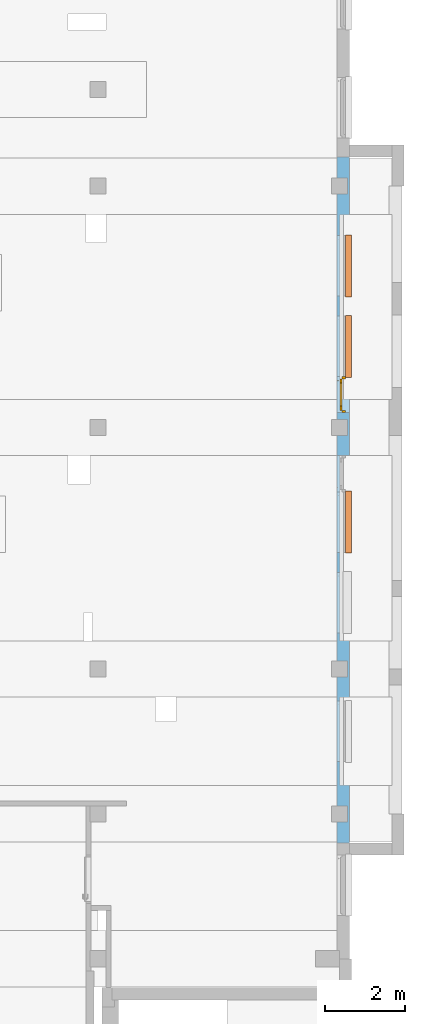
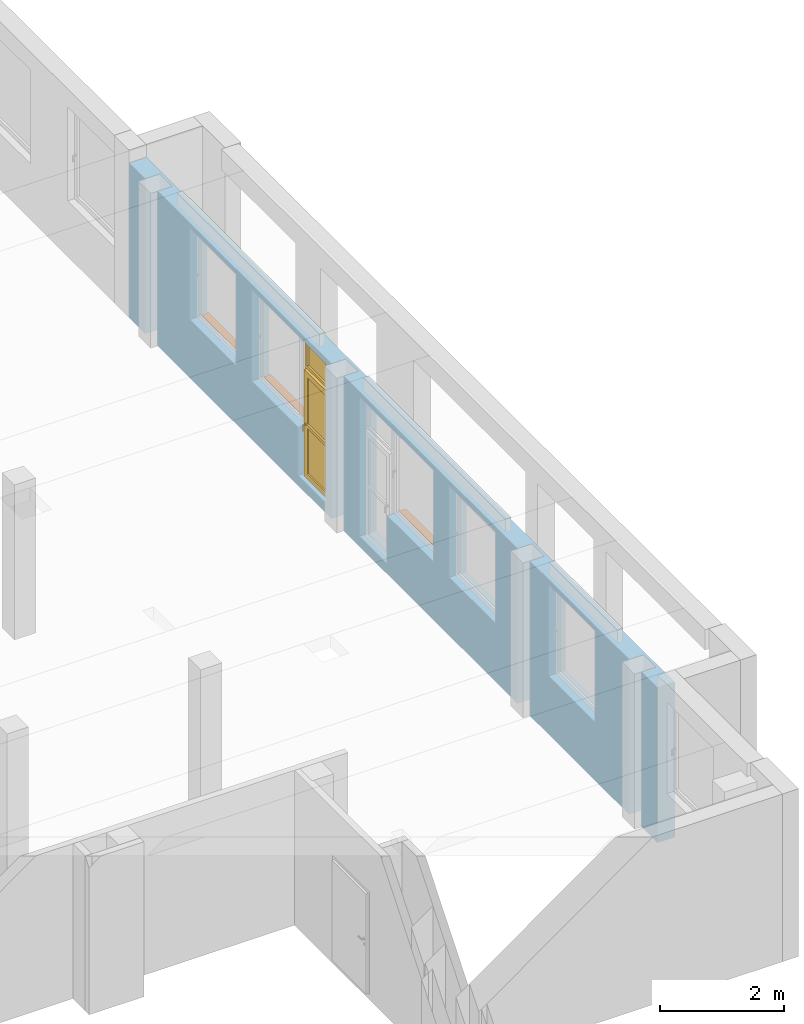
# One storey, part 18 of 27: 3 proxies, 1 door, 7 openings, plus 1 element that does not belong to this part.
"""IFC4 building model written with IfcOpenShell, lengths in metres."""

from ifc_helpers import new_model, entity, si_unit, converted_unit, derived_unit, frame, origin, origin_with_axes, place, context, subcontext, project, spatial, polyline, outline, extrude, closed_shell, open_shell, faceted_brep, surface_model, source, transform, mapped, material, layer, layer_set, layer_usage, type_object, element, fill, save


model = new_model("IFC4")

# Units and contexts
model_context = context("Model", 3, precision=1e-05, world=origin())
body_context = subcontext(model_context, "Body", "Model", "MODEL_VIEW")
ifc_project = project(units=[si_unit("LENGTHUNIT", "METRE"), si_unit("AREAUNIT", "SQUARE_METRE"), si_unit("VOLUMEUNIT", "CUBIC_METRE"), si_unit("MASSUNIT", "GRAM", prefix="KILO"), converted_unit("PLANEANGLEUNIT", "DEGREE", entity("IfcPlaneAngleMeasure", 0.0174532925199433), si_unit("PLANEANGLEUNIT", "RADIAN"), dimensions=[0, 0, 0, 0, 0, 0, 0]), derived_unit("THERMALTRANSMITTANCEUNIT", [(si_unit("POWERUNIT", "WATT"), 1), (si_unit("THERMODYNAMICTEMPERATUREUNIT", "KELVIN"), -1), (si_unit("LENGTHUNIT", "METRE"), -2)]), derived_unit("VOLUMETRICFLOWRATEUNIT", [(si_unit("LENGTHUNIT", "METRE"), 3), (converted_unit("TIMEUNIT", "hour", entity("IfcTimeMeasure", 3600.0), si_unit("TIMEUNIT", "SECOND"), dimensions=[0, 0, 1, 0, 0, 0, 0]), -1), (si_unit("LENGTHUNIT", "METRE"), -1)])], contexts=[model_context])

# Site, building, storey
site_placement = place(None, origin())
site = spatial("IfcSite", under=ifc_project, at=site_placement, Name="3. ASŘ", CompositionType="ELEMENT")
building_placement = place(site_placement, origin())
building = spatial("IfcBuilding", under=site, at=building_placement, Name="Pavilon C", CompositionType="ELEMENT")
storey_placement = place(building_placement, frame((0.0, 0.0, 7.2)))
storey = spatial("IfcBuildingStorey", under=building, at=storey_placement, Name="Půdorys 3.NP", CompositionType="ELEMENT", Elevation=7.2)

# Wall, openings, door, proxies
ifc_material_1 = material(Name="PLYNOSILIKÁT")
ifc_layer = layer(ifc_material_1, 0.32)
ifc_layer_set = layer_set([ifc_layer])
ifc_layer_usage = layer_usage(ifc_layer_set, "AXIS2", "POSITIVE", 0.0)
wall_placement = place(storey_placement, frame((50.2, 2.88, -0.1), z_axis=(0.0, 0.0, 1.0), x_axis=(0.0, 1.0, 0.0)))
wall = element("IfcWall", 1, at=wall_placement, inside=storey, material=ifc_layer_usage, Name="PLYNOSILIKÁT", context=body_context, shape_type="SweptSolid", body=[
    extrude(outline(polyline([(0.0, -0.32), (17.04, -0.32), (17.04, 0.0), (16.52, 0.0), (16.52, -0.27), (16.12, -0.27), (16.12, 0.0), (10.52, 0.0), (10.52, -0.27), (10.12, -0.27), (10.12, 0.0), (4.52, 0.0), (4.52, -0.27), (4.12, -0.27), (4.12, 0.0), (0.919999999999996, 0.0), (0.919999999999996, -0.27), (0.519999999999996, -0.27), (0.519999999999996, 0.0), (0.0, 0.0), (0.0, -0.32)])), frame((0.0, 0.32, 0.0), z_axis=(0.0, 0.0, 1.0), x_axis=(1.0, 0.0, 0.0)), (0.0, 0.0, 1.0), 3.05),
])
opening_1_placement = place(wall_placement, frame((5.21999999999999, 0.0, 1.15), z_axis=(0.0, 1.0, 0.0), x_axis=(0.0, 0.0, 1.0)))
element("IfcOpeningElement", 2, at=opening_1_placement, cuts=wall, Name="Okenní otvor", ObjectType="Opening", context=body_context, shape_type="SweptSolid", body=[
    extrude(outline(polyline([(0.0, 1.5), (1.8, 1.5), (1.8, 0.0), (0.0, 0.0), (0.0, 1.5)])), origin_with_axes(), (0.0, 0.0, 1.0), 0.32),
])
opening_2_placement = place(wall_placement, frame((2.02, 0.0, 1.15), z_axis=(0.0, 1.0, 0.0), x_axis=(0.0, 0.0, 1.0)))
element("IfcOpeningElement", 3, at=opening_2_placement, cuts=wall, Name="Okenní otvor", ObjectType="Opening", context=body_context, shape_type="SweptSolid", body=[
    extrude(outline(polyline([(0.0, 1.5), (1.8, 1.5), (1.8, 0.0), (0.0, 0.0), (0.0, 1.5)])), origin_with_axes(), (0.0, 0.0, 1.0), 0.32),
])
opening_3_placement = place(wall_placement, frame((8.71999999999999, 0.0, 0.2), z_axis=(0.0, 1.0, 0.0), x_axis=(0.0, 0.0, 1.0)))
element("IfcOpeningElement", 4, at=opening_3_placement, cuts=wall, Name="Dveřní otvor", ObjectType="Opening", context=body_context, shape_type="SweptSolid", body=[
    extrude(outline(polyline([(0.0, 0.9), (2.75, 0.9), (2.75, 0.0), (0.0, 0.0), (0.0, 0.9)])), origin_with_axes(), (0.0, 0.0, 1.0), 0.32),
])
opening_4_placement = place(wall_placement, frame((7.21999999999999, 0.0, 1.15), z_axis=(0.0, 1.0, 0.0), x_axis=(0.0, 0.0, 1.0)))
opening_4 = element("IfcOpeningElement", 5, at=opening_4_placement, cuts=wall, Name="Okenní otvor", ObjectType="Opening", context=body_context, shape_type="SweptSolid", body=[
    extrude(outline(polyline([(0.0, 1.5), (1.8, 1.5), (1.8, 0.0), (0.0, 0.0), (0.0, 1.5)])), origin_with_axes(), (0.0, 0.0, 1.0), 0.32),
])
opening_5_placement = place(wall_placement, frame((13.59, 0.0, 1.15), z_axis=(0.0, 1.0, 0.0), x_axis=(0.0, 0.0, 1.0)))
opening_5 = element("IfcOpeningElement", 6, at=opening_5_placement, cuts=wall, Name="Okenní otvor", ObjectType="Opening", context=body_context, shape_type="SweptSolid", body=[
    extrude(outline(polyline([(0.0, 1.5), (1.8, 1.5), (1.8, 0.0), (0.0, 0.0), (0.0, 1.5)])), origin_with_axes(), (0.0, 0.0, 1.0), 0.32),
])
opening_6_placement = place(wall_placement, frame((11.59, 0.0, 1.15), z_axis=(0.0, 1.0, 0.0), x_axis=(0.0, 0.0, 1.0)))
opening_6 = element("IfcOpeningElement", 7, at=opening_6_placement, cuts=wall, Name="Okenní otvor", ObjectType="Opening", context=body_context, shape_type="SweptSolid", body=[
    extrude(outline(polyline([(0.0, 1.5), (1.8, 1.5), (1.8, 0.0), (0.0, 0.0), (0.0, 1.5)])), origin_with_axes(), (0.0, 0.0, 1.0), 0.32),
])
opening_7_placement = place(wall_placement, frame((10.69, 0.0, 0.2), z_axis=(0.0, 1.0, 0.0), x_axis=(0.0, 0.0, 1.0)))
opening_7 = element("IfcOpeningElement", 8, at=opening_7_placement, cuts=wall, Name="Dveřní otvor", ObjectType="Opening", context=body_context, shape_type="SweptSolid", body=[
    extrude(outline(polyline([(0.0, 0.9), (2.75, 0.9), (2.75, 0.0), (0.0, 0.0), (0.0, 0.9)])), origin_with_axes(), (0.0, 0.0, 1.0), 0.32),
])
door_type = type_object("IfcDoorType", Name="D701", OperationType="NOTDEFINED", ParameterTakesPrecedence=False, PredefinedType="DOOR")
shared_shape_1 = source(origin_with_axes(), body_context, "Body", "SurfaceModel", [
    surface_model("IfcShellBasedSurfaceModel", [(0.0, 0.0920000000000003, 2.75), (0.0, 0.092, 8.57747943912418e-18), (0.06, 0.092, 8.57747943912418e-18), (0.06, 0.0920000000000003, 2.75), (0.0, 0.0, 1.98442299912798e-17), (0.0, 3.41060513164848e-16, 2.75), (0.06, 3.41060513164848e-16, 2.75), (0.06, 0.0, 1.98442299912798e-17)], [closed_shell([[[0, 1, 2, 3]], [[4, 5, 6, 7]], [[1, 0, 5, 4]], [[2, 1, 4, 7]], [[3, 2, 7, 6]], [[0, 3, 6, 5]]], orient=[[False], [False], [False], [False], [False], [False]])]),
    surface_model("IfcShellBasedSurfaceModel", [(0.84, 0.0920000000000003, 2.75), (0.84, 0.092, 8.57747943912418e-18), (0.9, 0.092, 8.57747943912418e-18), (0.9, 0.0920000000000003, 2.75), (0.84, 0.0, 1.98442299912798e-17), (0.84, 3.41060513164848e-16, 2.75), (0.9, 3.41060513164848e-16, 2.75), (0.9, 0.0, 1.98442299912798e-17)], [closed_shell([[[0, 1, 2, 3]], [[4, 5, 6, 7]], [[1, 0, 5, 4]], [[2, 1, 4, 7]], [[3, 2, 7, 6]], [[0, 3, 6, 5]]], orient=[[False], [False], [False], [False], [False], [False]])]),
    surface_model("IfcShellBasedSurfaceModel", [(0.06, 0.0920000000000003, 2.75), (0.06, 0.0920000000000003, 2.69), (0.84, 0.0920000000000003, 2.69), (0.84, 0.0920000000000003, 2.75), (0.06, 3.26849658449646e-16, 2.69), (0.06, 3.41060513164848e-16, 2.75), (0.84, 3.41060513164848e-16, 2.75), (0.84, 3.26849658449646e-16, 2.69)], [closed_shell([[[0, 1, 2, 3]], [[4, 5, 6, 7]], [[1, 0, 5, 4]], [[2, 1, 4, 7]], [[3, 2, 7, 6]], [[0, 3, 6, 5]]], orient=[[False], [False], [False], [False], [False], [False]])]),
    surface_model("IfcShellBasedSurfaceModel", [(0.06, 0.0920000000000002, 2.15), (0.06, 0.0920000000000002, 2.1), (0.84, 0.0920000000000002, 2.1), (0.84, 0.0920000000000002, 2.15), (0.06, 2.55795384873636e-16, 2.1), (0.06, 2.55795384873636e-16, 2.15), (0.84, 2.55795384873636e-16, 2.15), (0.84, 2.55795384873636e-16, 2.1)], [closed_shell([[[0, 1, 2, 3]], [[4, 5, 6, 7]], [[1, 0, 5, 4]], [[2, 1, 4, 7]], [[3, 2, 7, 6]], [[0, 3, 6, 5]]], orient=[[False], [False], [False], [False], [False], [False]])]),
    surface_model("IfcShellBasedSurfaceModel", [(0.06, 0.142, 2.1), (0.06, 0.142, 2.45424544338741e-18), (0.16, 0.142, 2.45424544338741e-18), (0.16, 0.142, 2.1), (0.06, 0.092, 8.57747943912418e-18), (0.06, 0.0920000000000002, 2.1), (0.16, 0.0920000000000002, 2.1), (0.16, 0.092, 8.57747943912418e-18)], [closed_shell([[[0, 1, 2, 3]], [[4, 5, 6, 7]], [[1, 0, 5, 4]], [[2, 1, 4, 7]], [[3, 2, 7, 6]], [[0, 3, 6, 5]]], orient=[[False], [False], [False], [False], [False], [False]])]),
    surface_model("IfcShellBasedSurfaceModel", [(0.74, 0.142, 2.1), (0.74, 0.142, 2.45424544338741e-18), (0.84, 0.142, 2.45424544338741e-18), (0.84, 0.142, 2.1), (0.74, 0.092, 8.57747943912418e-18), (0.74, 0.0920000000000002, 2.1), (0.84, 0.0920000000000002, 2.1), (0.84, 0.092, 8.57747943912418e-18)], [closed_shell([[[0, 1, 2, 3]], [[4, 5, 6, 7]], [[1, 0, 5, 4]], [[2, 1, 4, 7]], [[3, 2, 7, 6]], [[0, 3, 6, 5]]], orient=[[False], [False], [False], [False], [False], [False]])]),
    surface_model("IfcShellBasedSurfaceModel", [(0.16, 0.142, 0.1), (0.16, 0.142, 2.45424544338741e-18), (0.74, 0.142, 2.45424544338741e-18), (0.74, 0.142, 0.1), (0.16, 0.092, 8.57747943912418e-18), (0.16, 0.092, 0.1), (0.74, 0.092, 0.1), (0.74, 0.092, 8.57747943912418e-18)], [closed_shell([[[0, 1, 2, 3]], [[4, 5, 6, 7]], [[1, 0, 5, 4]], [[2, 1, 4, 7]], [[3, 2, 7, 6]], [[0, 3, 6, 5]]], orient=[[False], [False], [False], [False], [False], [False]])]),
    surface_model("IfcShellBasedSurfaceModel", [(0.16, 0.142, 2.1), (0.16, 0.142, 2.0), (0.74, 0.142, 2.0), (0.74, 0.142, 2.1), (0.16, 0.0920000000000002, 2.0), (0.16, 0.0920000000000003, 2.1), (0.74, 0.0920000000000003, 2.1), (0.74, 0.0920000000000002, 2.0)], [closed_shell([[[0, 1, 2, 3]], [[4, 5, 6, 7]], [[1, 0, 5, 4]], [[2, 1, 4, 7]], [[3, 2, 7, 6]], [[0, 3, 6, 5]]], orient=[[False], [False], [False], [False], [False], [False]])]),
    surface_model("IfcShellBasedSurfaceModel", [(0.7775, 0.142, 1.07), (0.8025, 0.142, 1.07), (0.8025, 0.142, 1.03), (0.7775, 0.142, 1.03), (0.7775, 0.152, 1.03), (0.8025, 0.152, 1.03), (0.8025, 0.152, 1.07), (0.7775, 0.152, 1.07)], [closed_shell([[[0, 1, 2, 3]], [[4, 5, 6, 7]], [[3, 4, 7, 0]], [[2, 5, 4, 3]], [[1, 6, 5, 2]], [[0, 7, 6, 1]]], orient=[[False], [False], [False], [False], [False], [False]])]),
    surface_model("IfcShellBasedSurfaceModel", [(0.8, 0.152, 1.05), (0.798660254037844, 0.152, 1.045), (0.795, 0.152, 1.04133974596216), (0.79, 0.152, 1.04), (0.785, 0.152, 1.04133974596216), (0.781339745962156, 0.152, 1.045), (0.78, 0.152, 1.05), (0.781339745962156, 0.152, 1.055), (0.785, 0.152, 1.05866025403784), (0.79, 0.152, 1.06), (0.795, 0.152, 1.05866025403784), (0.798660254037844, 0.152, 1.055), (0.798660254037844, 0.197, 1.055), (0.8, 0.192, 1.05), (0.795, 0.200660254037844, 1.05866025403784), (0.79, 0.202, 1.06), (0.785, 0.200660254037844, 1.05866025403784), (0.781339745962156, 0.197, 1.055), (0.78, 0.192, 1.05), (0.781339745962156, 0.187, 1.045), (0.785, 0.183339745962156, 1.04133974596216), (0.79, 0.182, 1.04), (0.795, 0.183339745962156, 1.04133974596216), (0.798660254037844, 0.187, 1.045), (0.798660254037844, 0.197, 0.935), (0.8, 0.192, 0.935), (0.795, 0.200660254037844, 0.935), (0.79, 0.202, 0.935), (0.785, 0.200660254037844, 0.935), (0.781339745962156, 0.197, 0.935), (0.78, 0.192, 0.935), (0.781339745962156, 0.187, 0.935), (0.785, 0.183339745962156, 0.935), (0.79, 0.182, 0.935), (0.795, 0.183339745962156, 0.935), (0.798660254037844, 0.187, 0.935)], [open_shell([[[0, 1, 2, 3, 4, 5, 6, 7, 8, 9, 10, 11]], [[0, 11, 12, 13]], [[11, 10, 14, 12]], [[10, 9, 15, 14]], [[9, 8, 16, 15]], [[8, 7, 17, 16]], [[7, 6, 18, 17]], [[6, 5, 19, 18]], [[5, 4, 20, 19]], [[4, 3, 21, 20]], [[3, 2, 22, 21]], [[2, 1, 23, 22]], [[1, 0, 13, 23]], [[13, 12, 24, 25]], [[12, 14, 26, 24]], [[14, 15, 27, 26]], [[15, 16, 28, 27]], [[16, 17, 29, 28]], [[17, 18, 30, 29]], [[18, 19, 31, 30]], [[19, 20, 32, 31]], [[20, 21, 33, 32]], [[21, 22, 34, 33]], [[22, 23, 35, 34]], [[23, 13, 25, 35]]], orient=[[False], [False], [False], [False], [False], [False], [False], [False], [False], [False], [False], [False], [False], [False], [False], [False], [False], [False], [False], [False], [False], [False], [False], [False], [False]])]),
    surface_model("IfcShellBasedSurfaceModel", [(0.06, 0.0560000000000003, 2.69), (0.06, 0.0560000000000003, 2.15), (0.84, 0.0560000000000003, 2.15), (0.84, 0.0560000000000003, 2.69), (0.06, 0.0360000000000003, 2.15), (0.06, 0.0360000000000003, 2.69), (0.84, 0.0360000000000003, 2.69), (0.84, 0.0360000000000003, 2.15)], [closed_shell([[[0, 1, 2, 3]], [[4, 5, 6, 7]], [[1, 0, 5, 4]], [[2, 1, 4, 7]], [[3, 2, 7, 6]], [[0, 3, 6, 5]]], orient=[[False], [False], [False], [False], [False], [False]])]),
    surface_model("IfcShellBasedSurfaceModel", [(0.16, 0.152, 1.08), (0.16, 0.152, 1.02), (0.74, 0.152, 1.02), (0.74, 0.152, 1.08), (0.16, 0.0820000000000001, 1.02), (0.16, 0.0820000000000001, 1.08), (0.74, 0.0820000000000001, 1.08), (0.74, 0.0820000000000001, 1.02)], [closed_shell([[[0, 1, 2, 3]], [[4, 5, 6, 7]], [[1, 0, 5, 4]], [[2, 1, 4, 7]], [[3, 2, 7, 6]], [[0, 3, 6, 5]]], orient=[[False], [False], [False], [False], [False], [False]])]),
    surface_model("IfcShellBasedSurfaceModel", [(0.16, 0.117, 0.1), (0.74, 0.117, 0.1), (0.74, 0.117, 1.02), (0.16, 0.117, 1.02)], [open_shell([[[0, 1, 2, 3]]], orient=[[False]])]),
    surface_model("IfcShellBasedSurfaceModel", [(0.16, 0.117, 1.08), (0.74, 0.117, 1.08), (0.74, 0.117, 2.0), (0.16, 0.117, 2.0)], [open_shell([[[0, 1, 2, 3]]], orient=[[False]])]),
])
door_placement = place(opening_7_placement, frame((0.0, -1.81898940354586e-15, 0.100000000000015), z_axis=(1.0, 0.0, 0.0), x_axis=(0.0, 1.0, -1.22464679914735e-16)))
door = element("IfcDoor", 9, at=door_placement, inside=storey, type_object=door_type, Name="D701", OverallHeight=2.75, OverallWidth=0.9, context=body_context, shape_type="MappedRepresentation", body=[
    mapped(shared_shape_1, transform((0.0, 0.0, 0.0), x_axis=(1.0, 0.0, 0.0), y_axis=(0.0, 1.0, 0.0), z_axis=(0.0, 0.0, 1.0), scale=1.0)),
])
fill(opening_7, door)
ifc_material_2 = material(Name="PLECH")
shared_shape_2 = source(origin_with_axes(), body_context, "Body", "Brep", [
    faceted_brep([(-3.63797880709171e-15, 1.45519152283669e-14, 0.0), (-3.63797880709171e-15, 0.100000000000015, 0.0), (-3.63797880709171e-15, 0.100000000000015, 0.005), (-3.63797880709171e-15, 1.45519152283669e-14, 0.005), (1.5, 1.45519152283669e-14, 0.0), (1.5, 1.45519152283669e-14, 0.005), (1.5, 0.100000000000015, 0.005), (1.5, 0.100000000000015, 0.0), (-0.0200000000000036, 1.45519152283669e-14, 0.0), (-0.0200000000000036, -0.0349999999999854, 0.0), (1.52, -0.0349999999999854, 0.0), (1.52, 1.45519152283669e-14, 0.0), (1.52, 1.45519152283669e-14, 0.005), (1.52, -0.0399999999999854, 0.005), (-0.0200000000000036, -0.0399999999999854, 0.005), (-0.0200000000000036, 1.45519152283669e-14, 0.005), (-0.0200000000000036, -0.0399999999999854, -0.025), (-0.0200000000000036, -0.0349999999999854, -0.025), (1.52, -0.0349999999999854, -0.025), (1.52, -0.0399999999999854, -0.025)], [[[0, 1, 2, 3]], [[4, 5, 6, 7]], [[1, 0, 8, 9, 10, 11, 4, 7]], [[2, 1, 7, 6]], [[3, 2, 6, 5, 12, 13, 14, 15]], [[8, 15, 14, 16, 17, 9]], [[11, 10, 18, 19, 13, 12]], [[15, 8, 0, 3]], [[5, 4, 11, 12]], [[16, 14, 13, 19]], [[17, 16, 19, 18]], [[9, 17, 18, 10]]], orient=[[False], [False], [False], [False], [False], [False], [False], [False], [False], [False], [False], [False]]),
    faceted_brep([(-0.0200000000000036, 1.45519152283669e-14, 0.0), (-0.0200000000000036, 0.100000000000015, 0.0), (-0.0200000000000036, 0.100000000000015, 0.005), (-0.0200000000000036, 1.45519152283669e-14, 0.005), (-3.63797880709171e-15, 1.45519152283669e-14, 0.0), (-3.63797880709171e-15, 1.45519152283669e-14, 0.005), (-3.63797880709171e-15, 0.100000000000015, 0.005), (-3.63797880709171e-15, 0.100000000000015, 0.0)], [[[0, 1, 2, 3]], [[4, 5, 6, 7]], [[1, 0, 4, 7]], [[2, 1, 7, 6]], [[3, 2, 6, 5]], [[0, 3, 5, 4]]], orient=[[False], [False], [False], [False], [False], [False]]),
    faceted_brep([(1.5, 1.45519152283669e-14, 0.0), (1.5, 0.100000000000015, 0.0), (1.5, 0.100000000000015, 0.005), (1.5, 1.45519152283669e-14, 0.005), (1.52, 1.45519152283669e-14, 0.0), (1.52, 1.45519152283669e-14, 0.005), (1.52, 0.100000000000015, 0.005), (1.52, 0.100000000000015, 0.0)], [[[0, 1, 2, 3]], [[4, 5, 6, 7]], [[1, 0, 4, 7]], [[2, 1, 7, 6]], [[3, 2, 6, 5]], [[0, 3, 5, 4]]], orient=[[False], [False], [False], [False], [False], [False]]),
])
proxy_1_placement = place(opening_4_placement, frame((0.0, 0.0, 0.0), z_axis=(1.0, 0.0, 0.0), x_axis=(0.0, 1.0, 0.0)))
proxy_1 = element("IfcBuildingElementProxy", 10, at=proxy_1_placement, inside=storey, material=ifc_material_2, Name="Parapet vnější", context=body_context, shape_type="MappedRepresentation", body=[
    mapped(shared_shape_2, transform((0.0, 0.0, 0.0), x_axis=(1.0, 0.0, 0.0), y_axis=(0.0, 1.0, 0.0), z_axis=(0.0, 0.0, 1.0), scale=1.0)),
])
fill(opening_4, proxy_1)
ifc_material_3 = material(Name="PLECH")
shared_shape_3 = source(origin_with_axes(), body_context, "Body", "Brep", [
    faceted_brep([(-7.27595761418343e-15, 1.45519152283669e-14, 0.0), (-7.27595761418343e-15, 0.100000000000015, 0.0), (-7.27595761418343e-15, 0.100000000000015, 0.005), (-7.27595761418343e-15, 1.45519152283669e-14, 0.005), (1.49999999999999, 1.45519152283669e-14, 0.0), (1.49999999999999, 1.45519152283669e-14, 0.005), (1.49999999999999, 0.100000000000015, 0.005), (1.49999999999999, 0.100000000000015, 0.0), (-0.0200000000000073, 1.45519152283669e-14, 0.0), (-0.0200000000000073, -0.0349999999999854, 0.0), (1.51999999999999, -0.0349999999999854, 0.0), (1.51999999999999, 1.45519152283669e-14, 0.0), (1.51999999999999, 1.45519152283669e-14, 0.005), (1.51999999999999, -0.0399999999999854, 0.005), (-0.0200000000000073, -0.0399999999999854, 0.005), (-0.0200000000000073, 1.45519152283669e-14, 0.005), (-0.0200000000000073, -0.0399999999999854, -0.025), (-0.0200000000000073, -0.0349999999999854, -0.025), (1.51999999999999, -0.0349999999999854, -0.025), (1.51999999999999, -0.0399999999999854, -0.025)], [[[0, 1, 2, 3]], [[4, 5, 6, 7]], [[1, 0, 8, 9, 10, 11, 4, 7]], [[2, 1, 7, 6]], [[3, 2, 6, 5, 12, 13, 14, 15]], [[8, 15, 14, 16, 17, 9]], [[11, 10, 18, 19, 13, 12]], [[15, 8, 0, 3]], [[5, 4, 11, 12]], [[16, 14, 13, 19]], [[17, 16, 19, 18]], [[9, 17, 18, 10]]], orient=[[False], [False], [False], [False], [False], [False], [False], [False], [False], [False], [False], [False]]),
    faceted_brep([(-0.0200000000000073, 1.45519152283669e-14, 0.0), (-0.0200000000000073, 0.100000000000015, 0.0), (-0.0200000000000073, 0.100000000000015, 0.005), (-0.0200000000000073, 1.45519152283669e-14, 0.005), (-7.27595761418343e-15, 1.45519152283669e-14, 0.0), (-7.27595761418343e-15, 1.45519152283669e-14, 0.005), (-7.27595761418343e-15, 0.100000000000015, 0.005), (-7.27595761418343e-15, 0.100000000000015, 0.0)], [[[0, 1, 2, 3]], [[4, 5, 6, 7]], [[1, 0, 4, 7]], [[2, 1, 7, 6]], [[3, 2, 6, 5]], [[0, 3, 5, 4]]], orient=[[False], [False], [False], [False], [False], [False]]),
    faceted_brep([(1.49999999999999, 1.45519152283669e-14, 0.0), (1.49999999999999, 0.100000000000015, 0.0), (1.49999999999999, 0.100000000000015, 0.005), (1.49999999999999, 1.45519152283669e-14, 0.005), (1.51999999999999, 1.45519152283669e-14, 0.0), (1.51999999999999, 1.45519152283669e-14, 0.005), (1.51999999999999, 0.100000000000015, 0.005), (1.51999999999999, 0.100000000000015, 0.0)], [[[0, 1, 2, 3]], [[4, 5, 6, 7]], [[1, 0, 4, 7]], [[2, 1, 7, 6]], [[3, 2, 6, 5]], [[0, 3, 5, 4]]], orient=[[False], [False], [False], [False], [False], [False]]),
])
proxy_2_placement = place(opening_5_placement, frame((0.0, 0.0, 0.0), z_axis=(1.0, 0.0, 0.0), x_axis=(0.0, 1.0, 0.0)))
proxy_2 = element("IfcBuildingElementProxy", 11, at=proxy_2_placement, inside=storey, material=ifc_material_3, Name="Parapet vnější", context=body_context, shape_type="MappedRepresentation", body=[
    mapped(shared_shape_3, transform((0.0, 0.0, 0.0), x_axis=(1.0, 0.0, 0.0), y_axis=(0.0, 1.0, 0.0), z_axis=(0.0, 0.0, 1.0), scale=1.0)),
])
fill(opening_5, proxy_2)
ifc_material_4 = material(Name="PLECH")
shared_shape_4 = source(origin_with_axes(), body_context, "Body", "Brep", [
    faceted_brep([(-3.63797880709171e-15, 1.45519152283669e-14, 0.0), (-3.63797880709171e-15, 0.100000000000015, 0.0), (-3.63797880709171e-15, 0.100000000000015, 0.005), (-3.63797880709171e-15, 1.45519152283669e-14, 0.005), (1.5, 1.45519152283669e-14, 0.0), (1.5, 1.45519152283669e-14, 0.005), (1.5, 0.100000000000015, 0.005), (1.5, 0.100000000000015, 0.0), (-0.0200000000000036, 1.45519152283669e-14, 0.0), (-0.0200000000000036, -0.0349999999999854, 0.0), (1.52, -0.0349999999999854, 0.0), (1.52, 1.45519152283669e-14, 0.0), (1.52, 1.45519152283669e-14, 0.005), (1.52, -0.0399999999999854, 0.005), (-0.0200000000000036, -0.0399999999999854, 0.005), (-0.0200000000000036, 1.45519152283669e-14, 0.005), (-0.0200000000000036, -0.0399999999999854, -0.025), (-0.0200000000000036, -0.0349999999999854, -0.025), (1.52, -0.0349999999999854, -0.025), (1.52, -0.0399999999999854, -0.025)], [[[0, 1, 2, 3]], [[4, 5, 6, 7]], [[1, 0, 8, 9, 10, 11, 4, 7]], [[2, 1, 7, 6]], [[3, 2, 6, 5, 12, 13, 14, 15]], [[8, 15, 14, 16, 17, 9]], [[11, 10, 18, 19, 13, 12]], [[15, 8, 0, 3]], [[5, 4, 11, 12]], [[16, 14, 13, 19]], [[17, 16, 19, 18]], [[9, 17, 18, 10]]], orient=[[False], [False], [False], [False], [False], [False], [False], [False], [False], [False], [False], [False]]),
    faceted_brep([(-0.0200000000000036, 1.45519152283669e-14, 0.0), (-0.0200000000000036, 0.100000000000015, 0.0), (-0.0200000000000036, 0.100000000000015, 0.005), (-0.0200000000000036, 1.45519152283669e-14, 0.005), (-3.63797880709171e-15, 1.45519152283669e-14, 0.0), (-3.63797880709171e-15, 1.45519152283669e-14, 0.005), (-3.63797880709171e-15, 0.100000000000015, 0.005), (-3.63797880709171e-15, 0.100000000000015, 0.0)], [[[0, 1, 2, 3]], [[4, 5, 6, 7]], [[1, 0, 4, 7]], [[2, 1, 7, 6]], [[3, 2, 6, 5]], [[0, 3, 5, 4]]], orient=[[False], [False], [False], [False], [False], [False]]),
    faceted_brep([(1.5, 1.45519152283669e-14, 0.0), (1.5, 0.100000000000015, 0.0), (1.5, 0.100000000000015, 0.005), (1.5, 1.45519152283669e-14, 0.005), (1.52, 1.45519152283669e-14, 0.0), (1.52, 1.45519152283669e-14, 0.005), (1.52, 0.100000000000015, 0.005), (1.52, 0.100000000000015, 0.0)], [[[0, 1, 2, 3]], [[4, 5, 6, 7]], [[1, 0, 4, 7]], [[2, 1, 7, 6]], [[3, 2, 6, 5]], [[0, 3, 5, 4]]], orient=[[False], [False], [False], [False], [False], [False]]),
])
proxy_3_placement = place(opening_6_placement, frame((0.0, 0.0, 0.0), z_axis=(1.0, 0.0, 0.0), x_axis=(0.0, 1.0, 0.0)))
proxy_3 = element("IfcBuildingElementProxy", 12, at=proxy_3_placement, inside=storey, material=ifc_material_4, Name="Parapet vnější", context=body_context, shape_type="MappedRepresentation", body=[
    mapped(shared_shape_4, transform((0.0, 0.0, 0.0), x_axis=(1.0, 0.0, 0.0), y_axis=(0.0, 1.0, 0.0), z_axis=(0.0, 0.0, 1.0), scale=1.0)),
])
fill(opening_6, proxy_3)

save(model, "model.ifc")
